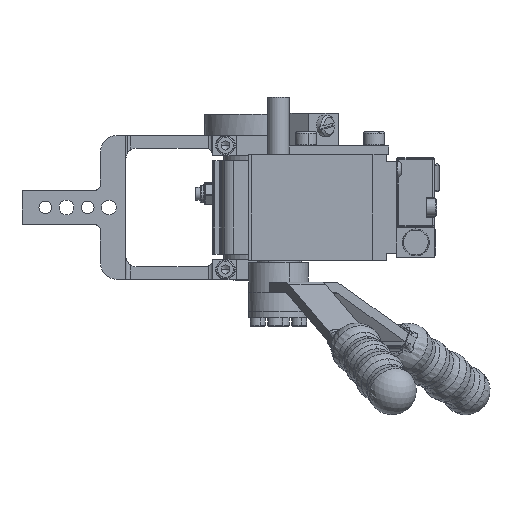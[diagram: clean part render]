
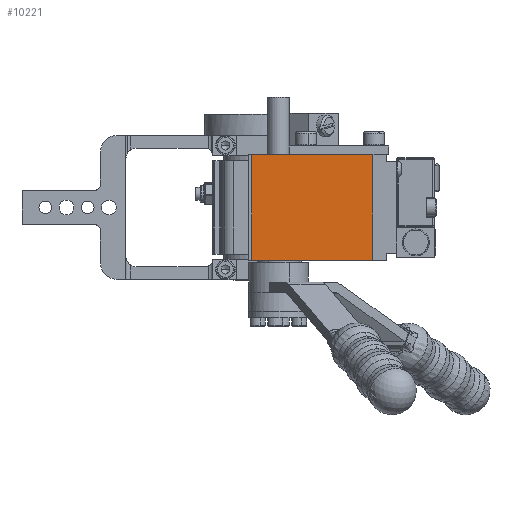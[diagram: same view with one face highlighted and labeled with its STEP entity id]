
A CAD part, front view. The second image highlights one B-rep face of the part: STEP entity #10221.
In plain terms, the highlighted planar face has unit normal (0, -1, 0).
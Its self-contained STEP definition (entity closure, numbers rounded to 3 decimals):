
#9427=CARTESIAN_POINT('',(45.223,-222.304,50.0));
#9428=VERTEX_POINT('',#9427);
#9435=CARTESIAN_POINT('',(45.223,-222.304,0.));
#9436=VERTEX_POINT('',#9435);
#9437=CARTESIAN_POINT('',(45.223,-222.304,50.0));
#9438=DIRECTION('',(0.0,0.0,-1.0));
#9439=VECTOR('',#9438,50.);
#9440=LINE('',#9437,#9439);
#9441=EDGE_CURVE('',#9428,#9436,#9440,.T.);
#10150=CARTESIAN_POINT('',(-11.927,-222.304,0.));
#10151=VERTEX_POINT('',#10150);
#10152=CARTESIAN_POINT('',(45.223,-222.304,0.));
#10153=DIRECTION('',(-1.0,0.0,0.0));
#10154=VECTOR('',#10153,57.15);
#10155=LINE('',#10152,#10154);
#10156=EDGE_CURVE('',#9436,#10151,#10155,.T.);
#10174=CARTESIAN_POINT('',(-11.927,-222.304,50.0));
#10175=VERTEX_POINT('',#10174);
#10176=CARTESIAN_POINT('',(-11.927,-222.304,0.));
#10177=DIRECTION('',(0.0,0.0,1.0));
#10178=VECTOR('',#10177,50.);
#10179=LINE('',#10176,#10178);
#10180=EDGE_CURVE('',#10151,#10175,#10179,.T.);
#10198=CARTESIAN_POINT('',(-11.927,-222.304,50.0));
#10199=DIRECTION('',(1.0,0.0,0.0));
#10200=VECTOR('',#10199,57.15);
#10201=LINE('',#10198,#10200);
#10202=EDGE_CURVE('',#10175,#9428,#10201,.T.);
#10210=CARTESIAN_POINT('',(16.648,-222.304,25.0));
#10211=DIRECTION('',(0.0,-1.0,0.0));
#10212=DIRECTION('',(0.0,0.0,-1.0));
#10213=AXIS2_PLACEMENT_3D('',#10210,#10211,#10212);
#10214=PLANE('',#10213);
#10215=ORIENTED_EDGE('',*,*,#9441,.F.);
#10216=ORIENTED_EDGE('',*,*,#10202,.F.);
#10217=ORIENTED_EDGE('',*,*,#10180,.F.);
#10218=ORIENTED_EDGE('',*,*,#10156,.F.);
#10219=EDGE_LOOP('',(#10215,#10216,#10217,#10218));
#10220=FACE_OUTER_BOUND('',#10219,.T.);
#10221=ADVANCED_FACE('',(#10220),#10214,.T.);
